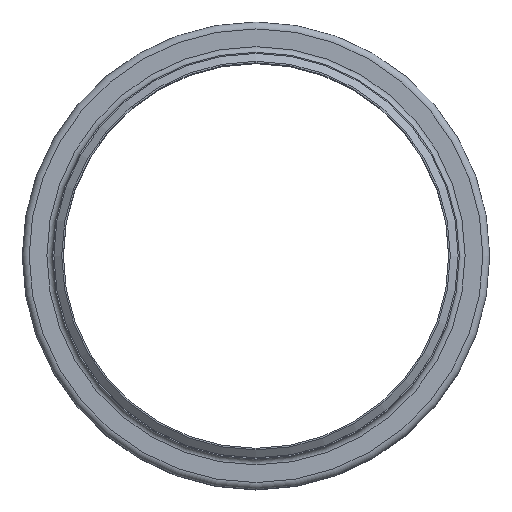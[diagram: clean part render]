
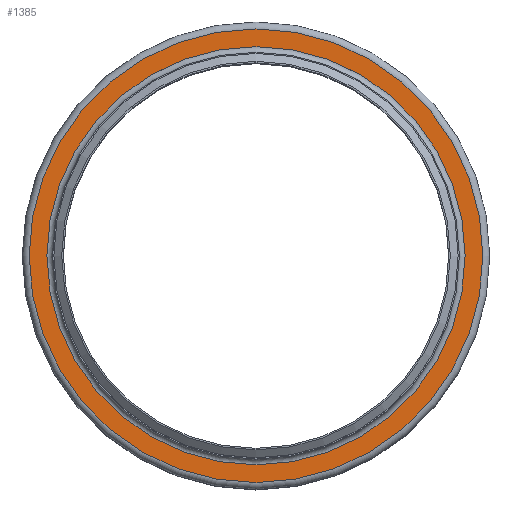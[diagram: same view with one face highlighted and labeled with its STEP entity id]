
A CAD part, top view. The second image highlights one B-rep face of the part: STEP entity #1385.
In plain terms, the highlighted planar face has unit normal (0, 0, 1).
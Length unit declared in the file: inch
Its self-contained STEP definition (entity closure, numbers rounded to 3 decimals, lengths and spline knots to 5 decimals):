
#155=FACE_BOUND('',#416,.T.);
#256=FACE_OUTER_BOUND('',#415,.T.);
#415=EDGE_LOOP('',(#1168));
#416=EDGE_LOOP('',(#1169));
#584=CIRCLE('',#1684,8.274);
#585=CIRCLE('',#1686,8.976);
#703=VERTEX_POINT('',#2631);
#704=VERTEX_POINT('',#2635);
#862=EDGE_CURVE('',#703,#703,#584,.T.);
#863=EDGE_CURVE('',#704,#704,#585,.T.);
#1168=ORIENTED_EDGE('',*,*,#863,.F.);
#1169=ORIENTED_EDGE('',*,*,#862,.T.);
#1284=PLANE('',#1685);
#1385=ADVANCED_FACE('',(#256,#155),#1284,.T.);
#1684=AXIS2_PLACEMENT_3D('',#2633,#2197,#2198);
#1685=AXIS2_PLACEMENT_3D('',#2634,#2199,#2200);
#1686=AXIS2_PLACEMENT_3D('',#2636,#2201,#2202);
#2197=DIRECTION('center_axis',(0.,0.,-1.));
#2198=DIRECTION('ref_axis',(1.,0.,0.));
#2199=DIRECTION('center_axis',(0.,0.,1.));
#2200=DIRECTION('ref_axis',(1.,0.,0.));
#2201=DIRECTION('center_axis',(0.,0.,-1.));
#2202=DIRECTION('ref_axis',(1.,0.,0.));
#2631=CARTESIAN_POINT('',(8.274,0.,-0.226));
#2633=CARTESIAN_POINT('Origin',(0.,0.,-0.226));
#2634=CARTESIAN_POINT('Origin',(0.,8.976,-0.226));
#2635=CARTESIAN_POINT('',(8.976,0.,-0.226));
#2636=CARTESIAN_POINT('Origin',(0.,0.,-0.226));
